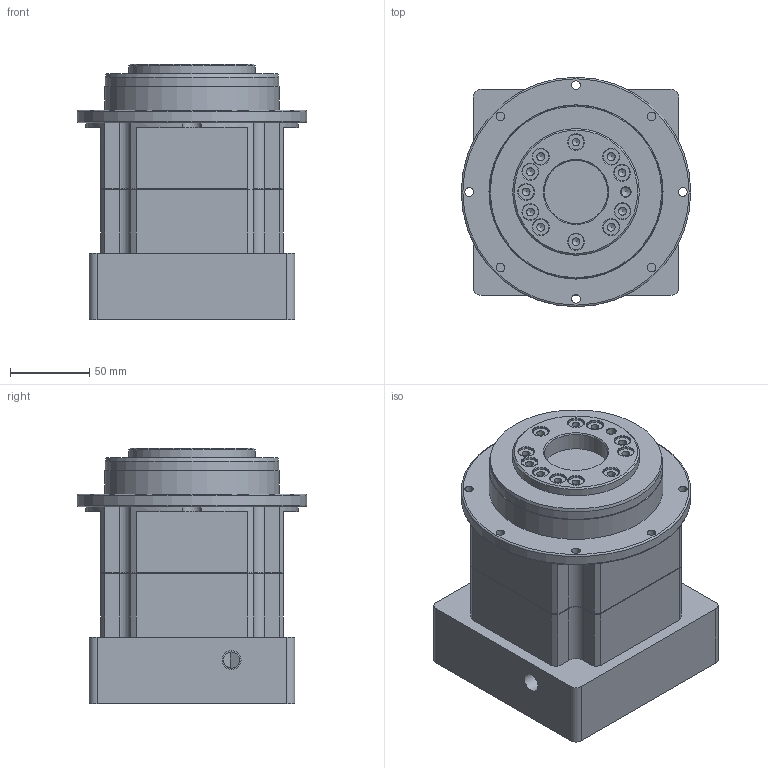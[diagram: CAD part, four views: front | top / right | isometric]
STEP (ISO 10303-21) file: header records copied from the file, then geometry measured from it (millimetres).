
FILE_DESCRIPTION((''),'2;1');
FILE_NAME('D:\유성\유성\도면\3D\2. 홈페이지용 3D 도면 (ipt)\외부도\SPIFH115\SPIFH115 SERIES (1 STAGE-A TYPE)_Shrinkwrap_1.stp','2014-05-08T15:01:40',('nagyu'),(''),'Autodesk Inventor 2013','Autodesk Inventor 2013','');
FILE_SCHEMA(('AUTOMOTIVE_DESIGN { 1 0 10303 214 1 1 1 1 }'));
Length unit declared in the file: millimetre
Products named in the file (1): SPIFH115 SERIES (1 STAGE-A TYPE)_Shrinkwrap_1
Bounding box: 145 x 145 x 161.2 mm (x, y, z)
Volume: 1823506.8 mm3; surface area: 144768.4 mm2
Topology: 1 solids, 1 shells, 211 faces, 532 edges, 340 vertices
Faces by surface type: cylinder 78, plane 77, cone 54, torus 2
Full cylindrical faces by diameter (mm): 4.917 x11, 5.5 x8, 6 x1, 6.647 x4, 10 x11, 10.2 x1, 12 x1, 32 x1, 40 x1, 45 x1, 80 x2, 109.4 x1, 110 x2, 145 x1
Entity records: 5660 total; most frequent: DIRECTION 1020, CARTESIAN_POINT 1015, ORIENTED_EDGE 812, AXIS2_PLACEMENT_3D 427, EDGE_CURVE 406, EDGE_LOOP 334, VERTEX_POINT 300, CIRCLE 211
